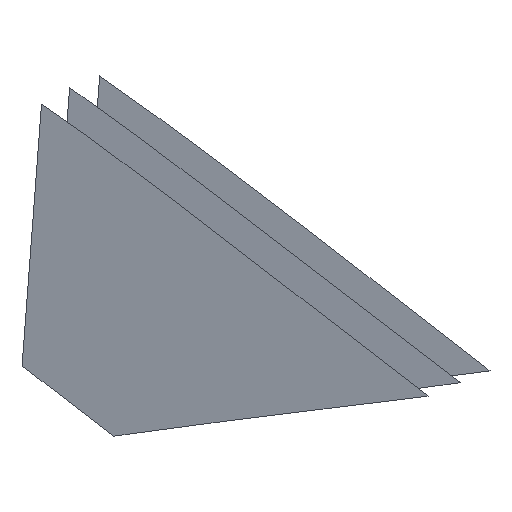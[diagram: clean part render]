
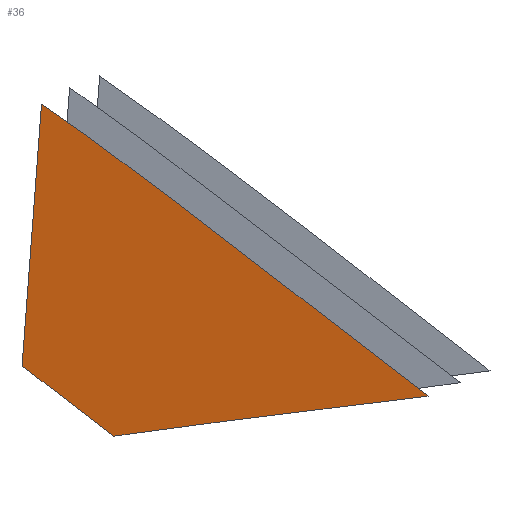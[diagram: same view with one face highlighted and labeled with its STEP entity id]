
A CAD part, front view. The second image highlights one B-rep face of the part: STEP entity #36.
In plain terms, the highlighted free-form (B-spline) face has degree [1, 1] with [2, 2] control points.
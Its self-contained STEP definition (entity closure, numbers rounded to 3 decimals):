
#36 = ADVANCED_FACE('',(#37),#50,.T.);
#37 = FACE_BOUND('',#38,.T.);
#38 = EDGE_LOOP('',(#39,#60,#74,#88,#102,#116,#130,#144,#158,#172,#186)
  );
#39 = ORIENTED_EDGE('',*,*,#40,.T.);
#40 = EDGE_CURVE('',#41,#43,#45,.T.);
#41 = VERTEX_POINT('',#42);
#42 = CARTESIAN_POINT('',(1612.529,-1408.364,
    1373.649));
#43 = VERTEX_POINT('',#44);
#44 = CARTESIAN_POINT('',(1612.907,-1408.416,
    1373.368));
#45 = SURFACE_CURVE('',#46,(#49),.PCURVE_S1.);
#46 = B_SPLINE_CURVE_WITH_KNOTS('',1,(#47,#48),.UNSPECIFIED.,.F.,.F.,(2,
    2),(0.,0.474),.PIECEWISE_BEZIER_KNOTS.);
#47 = CARTESIAN_POINT('',(1612.529,-1408.364,
    1373.649));
#48 = CARTESIAN_POINT('',(1612.907,-1408.416,
    1373.368));
#49 = PCURVE('',#50,#55);
#50 = B_SPLINE_SURFACE_WITH_KNOTS('',1,1,(
    (#51,#52)
    ,(#53,#54
    )),.UNSPECIFIED.,.F.,.F.,.F.,(2,2),(2,2),(-4.438,
    2.582),(-3.45,4.575),
  .PIECEWISE_BEZIER_KNOTS.);
#51 = CARTESIAN_POINT('',(1611.646,-1408.566,
    1378.657));
#52 = CARTESIAN_POINT('',(1619.406,-1410.146,
    1379.96));
#53 = CARTESIAN_POINT('',(1612.863,-1408.287,
    1371.749));
#54 = CARTESIAN_POINT('',(1620.623,-1409.867,
    1373.053));
#55 = DEFINITIONAL_REPRESENTATION('',(#56),#59);
#56 = B_SPLINE_CURVE_WITH_KNOTS('',1,(#57,#58),.UNSPECIFIED.,.F.,.F.,(2,
    2),(0.,0.474),.PIECEWISE_BEZIER_KNOTS.);
#57 = CARTESIAN_POINT('',(0.651,-3.45));
#58 = CARTESIAN_POINT('',(0.991,-3.12));
#59 = ( GEOMETRIC_REPRESENTATION_CONTEXT(2) 
PARAMETRIC_REPRESENTATION_CONTEXT() REPRESENTATION_CONTEXT('2D SPACE',''
  ) );
#60 = ORIENTED_EDGE('',*,*,#61,.T.);
#61 = EDGE_CURVE('',#43,#62,#64,.T.);
#62 = VERTEX_POINT('',#63);
#63 = CARTESIAN_POINT('',(1614.351,-1408.609,
    1372.257));
#64 = SURFACE_CURVE('',#65,(#68),.PCURVE_S1.);
#65 = B_SPLINE_CURVE_WITH_KNOTS('',1,(#66,#67),.UNSPECIFIED.,.F.,.F.,(2,
    2),(0.,1.832),.PIECEWISE_BEZIER_KNOTS.);
#66 = CARTESIAN_POINT('',(1612.907,-1408.416,
    1373.368));
#67 = CARTESIAN_POINT('',(1614.351,-1408.609,
    1372.257));
#68 = PCURVE('',#50,#69);
#69 = DEFINITIONAL_REPRESENTATION('',(#70),#73);
#70 = B_SPLINE_CURVE_WITH_KNOTS('',1,(#71,#72),.UNSPECIFIED.,.F.,.F.,(2,
    2),(0.,1.832),.PIECEWISE_BEZIER_KNOTS.);
#71 = CARTESIAN_POINT('',(0.991,-3.12));
#72 = CARTESIAN_POINT('',(2.327,-1.866));
#73 = ( GEOMETRIC_REPRESENTATION_CONTEXT(2) 
PARAMETRIC_REPRESENTATION_CONTEXT() REPRESENTATION_CONTEXT('2D SPACE',''
  ) );
#74 = ORIENTED_EDGE('',*,*,#75,.T.);
#75 = EDGE_CURVE('',#62,#76,#78,.T.);
#76 = VERTEX_POINT('',#77);
#77 = CARTESIAN_POINT('',(1614.747,-1408.689,
    1372.31));
#78 = SURFACE_CURVE('',#79,(#82),.PCURVE_S1.);
#79 = B_SPLINE_CURVE_WITH_KNOTS('',1,(#80,#81),.UNSPECIFIED.,.F.,.F.,(2,
    2),(0.,0.407),.PIECEWISE_BEZIER_KNOTS.);
#80 = CARTESIAN_POINT('',(1614.351,-1408.609,
    1372.257));
#81 = CARTESIAN_POINT('',(1614.747,-1408.689,
    1372.31));
#82 = PCURVE('',#50,#83);
#83 = DEFINITIONAL_REPRESENTATION('',(#84),#87);
#84 = B_SPLINE_CURVE_WITH_KNOTS('',1,(#85,#86),.UNSPECIFIED.,.F.,.F.,(2,
    2),(0.,0.407),.PIECEWISE_BEZIER_KNOTS.);
#85 = CARTESIAN_POINT('',(2.327,-1.866));
#86 = CARTESIAN_POINT('',(2.34,-1.459));
#87 = ( GEOMETRIC_REPRESENTATION_CONTEXT(2) 
PARAMETRIC_REPRESENTATION_CONTEXT() REPRESENTATION_CONTEXT('2D SPACE',''
  ) );
#88 = ORIENTED_EDGE('',*,*,#89,.T.);
#89 = EDGE_CURVE('',#76,#90,#92,.T.);
#90 = VERTEX_POINT('',#91);
#91 = CARTESIAN_POINT('',(1616.694,-1409.08,
    1372.571));
#92 = SURFACE_CURVE('',#93,(#96),.PCURVE_S1.);
#93 = B_SPLINE_CURVE_WITH_KNOTS('',1,(#94,#95),.UNSPECIFIED.,.F.,.F.,(2,
    2),(0.,2.003),.PIECEWISE_BEZIER_KNOTS.);
#94 = CARTESIAN_POINT('',(1614.747,-1408.689,
    1372.31));
#95 = CARTESIAN_POINT('',(1616.694,-1409.08,
    1372.571));
#96 = PCURVE('',#50,#97);
#97 = DEFINITIONAL_REPRESENTATION('',(#98),#101);
#98 = B_SPLINE_CURVE_WITH_KNOTS('',1,(#99,#100),.UNSPECIFIED.,.F.,.F.,(2
    ,2),(0.,2.003),.PIECEWISE_BEZIER_KNOTS.);
#99 = CARTESIAN_POINT('',(2.34,-1.459));
#100 = CARTESIAN_POINT('',(2.406,0.543));
#101 = ( GEOMETRIC_REPRESENTATION_CONTEXT(2) 
PARAMETRIC_REPRESENTATION_CONTEXT() REPRESENTATION_CONTEXT('2D SPACE',''
  ) );
#102 = ORIENTED_EDGE('',*,*,#103,.T.);
#103 = EDGE_CURVE('',#90,#104,#106,.T.);
#104 = VERTEX_POINT('',#105);
#105 = CARTESIAN_POINT('',(1618.643,-1409.471,
    1372.812));
#106 = SURFACE_CURVE('',#107,(#110),.PCURVE_S1.);
#107 = B_SPLINE_CURVE_WITH_KNOTS('',1,(#108,#109),.UNSPECIFIED.,.F.,.F.,
  (2,2),(0.,2.003),.PIECEWISE_BEZIER_KNOTS.);
#108 = CARTESIAN_POINT('',(1616.694,-1409.08,
    1372.571));
#109 = CARTESIAN_POINT('',(1618.643,-1409.471,
    1372.812));
#110 = PCURVE('',#50,#111);
#111 = DEFINITIONAL_REPRESENTATION('',(#112),#115);
#112 = B_SPLINE_CURVE_WITH_KNOTS('',1,(#113,#114),.UNSPECIFIED.,.F.,.F.,
  (2,2),(0.,2.003),.PIECEWISE_BEZIER_KNOTS.);
#113 = CARTESIAN_POINT('',(2.406,0.543));
#114 = CARTESIAN_POINT('',(2.491,2.544));
#115 = ( GEOMETRIC_REPRESENTATION_CONTEXT(2) 
PARAMETRIC_REPRESENTATION_CONTEXT() REPRESENTATION_CONTEXT('2D SPACE',''
  ) );
#116 = ORIENTED_EDGE('',*,*,#117,.T.);
#117 = EDGE_CURVE('',#104,#118,#120,.T.);
#118 = VERTEX_POINT('',#119);
#119 = CARTESIAN_POINT('',(1620.594,-1409.861,
    1373.049));
#120 = SURFACE_CURVE('',#121,(#124),.PCURVE_S1.);
#121 = B_SPLINE_CURVE_WITH_KNOTS('',1,(#122,#123),.UNSPECIFIED.,.F.,.F.,
  (2,2),(0.,2.003),.PIECEWISE_BEZIER_KNOTS.);
#122 = CARTESIAN_POINT('',(1618.643,-1409.471,
    1372.812));
#123 = CARTESIAN_POINT('',(1620.594,-1409.861,
    1373.049));
#124 = PCURVE('',#50,#125);
#125 = DEFINITIONAL_REPRESENTATION('',(#126),#129);
#126 = B_SPLINE_CURVE_WITH_KNOTS('',1,(#127,#128),.UNSPECIFIED.,.F.,.F.,
  (2,2),(0.,2.003),.PIECEWISE_BEZIER_KNOTS.);
#127 = CARTESIAN_POINT('',(2.491,2.544));
#128 = CARTESIAN_POINT('',(2.58,4.545));
#129 = ( GEOMETRIC_REPRESENTATION_CONTEXT(2) 
PARAMETRIC_REPRESENTATION_CONTEXT() REPRESENTATION_CONTEXT('2D SPACE',''
  ) );
#130 = ORIENTED_EDGE('',*,*,#131,.T.);
#131 = EDGE_CURVE('',#118,#132,#134,.T.);
#132 = VERTEX_POINT('',#133);
#133 = CARTESIAN_POINT('',(1620.623,-1409.867,
    1373.053));
#134 = SURFACE_CURVE('',#135,(#138),.PCURVE_S1.);
#135 = B_SPLINE_CURVE_WITH_KNOTS('',1,(#136,#137),.UNSPECIFIED.,.F.,.F.,
  (2,2),(0.,0.03),.PIECEWISE_BEZIER_KNOTS.);
#136 = CARTESIAN_POINT('',(1620.594,-1409.861,
    1373.049));
#137 = CARTESIAN_POINT('',(1620.623,-1409.867,
    1373.053));
#138 = PCURVE('',#50,#139);
#139 = DEFINITIONAL_REPRESENTATION('',(#140),#143);
#140 = B_SPLINE_CURVE_WITH_KNOTS('',1,(#141,#142),.UNSPECIFIED.,.F.,.F.,
  (2,2),(0.,0.03),.PIECEWISE_BEZIER_KNOTS.);
#141 = CARTESIAN_POINT('',(2.58,4.545));
#142 = CARTESIAN_POINT('',(2.582,4.575));
#143 = ( GEOMETRIC_REPRESENTATION_CONTEXT(2) 
PARAMETRIC_REPRESENTATION_CONTEXT() REPRESENTATION_CONTEXT('2D SPACE',''
  ) );
#144 = ORIENTED_EDGE('',*,*,#145,.T.);
#145 = EDGE_CURVE('',#132,#146,#148,.T.);
#146 = VERTEX_POINT('',#147);
#147 = CARTESIAN_POINT('',(1615.527,-1409.183,
    1376.972));
#148 = SURFACE_CURVE('',#149,(#152),.PCURVE_S1.);
#149 = B_SPLINE_CURVE_WITH_KNOTS('',1,(#150,#151),.UNSPECIFIED.,.F.,.F.,
  (2,2),(0.,6.465),.PIECEWISE_BEZIER_KNOTS.);
#150 = CARTESIAN_POINT('',(1620.623,-1409.867,
    1373.053));
#151 = CARTESIAN_POINT('',(1615.527,-1409.183,
    1376.972));
#152 = PCURVE('',#50,#153);
#153 = DEFINITIONAL_REPRESENTATION('',(#154),#157);
#154 = B_SPLINE_CURVE_WITH_KNOTS('',1,(#155,#156),.UNSPECIFIED.,.F.,.F.,
  (2,2),(0.,6.465),.PIECEWISE_BEZIER_KNOTS.);
#155 = CARTESIAN_POINT('',(2.582,4.575));
#156 = CARTESIAN_POINT('',(-2.132,0.15));
#157 = ( GEOMETRIC_REPRESENTATION_CONTEXT(2) 
PARAMETRIC_REPRESENTATION_CONTEXT() REPRESENTATION_CONTEXT('2D SPACE',''
  ) );
#158 = ORIENTED_EDGE('',*,*,#159,.T.);
#159 = EDGE_CURVE('',#146,#160,#162,.T.);
#160 = VERTEX_POINT('',#161);
#161 = CARTESIAN_POINT('',(1613.875,-1408.958,
    1378.199));
#162 = SURFACE_CURVE('',#163,(#166),.PCURVE_S1.);
#163 = B_SPLINE_CURVE_WITH_KNOTS('',1,(#164,#165),.UNSPECIFIED.,.F.,.F.,
  (2,2),(0.,2.07),.PIECEWISE_BEZIER_KNOTS.);
#164 = CARTESIAN_POINT('',(1615.527,-1409.183,
    1376.972));
#165 = CARTESIAN_POINT('',(1613.875,-1408.958,
    1378.199));
#166 = PCURVE('',#50,#167);
#167 = DEFINITIONAL_REPRESENTATION('',(#168),#171);
#168 = B_SPLINE_CURVE_WITH_KNOTS('',1,(#169,#170),.UNSPECIFIED.,.F.,.F.,
  (2,2),(0.,2.07),.PIECEWISE_BEZIER_KNOTS.);
#169 = CARTESIAN_POINT('',(-2.132,0.15));
#170 = CARTESIAN_POINT('',(-3.617,-1.292));
#171 = ( GEOMETRIC_REPRESENTATION_CONTEXT(2) 
PARAMETRIC_REPRESENTATION_CONTEXT() REPRESENTATION_CONTEXT('2D SPACE',''
  ) );
#172 = ORIENTED_EDGE('',*,*,#173,.T.);
#173 = EDGE_CURVE('',#160,#174,#176,.T.);
#174 = VERTEX_POINT('',#175);
#175 = CARTESIAN_POINT('',(1612.917,-1408.825,
    1378.87));
#176 = SURFACE_CURVE('',#177,(#180),.PCURVE_S1.);
#177 = B_SPLINE_CURVE_WITH_KNOTS('',1,(#178,#179),.UNSPECIFIED.,.F.,.F.,
  (2,2),(0.,1.178),.PIECEWISE_BEZIER_KNOTS.);
#178 = CARTESIAN_POINT('',(1613.875,-1408.958,
    1378.199));
#179 = CARTESIAN_POINT('',(1612.917,-1408.825,
    1378.87));
#180 = PCURVE('',#50,#181);
#181 = DEFINITIONAL_REPRESENTATION('',(#182),#185);
#182 = B_SPLINE_CURVE_WITH_KNOTS('',1,(#183,#184),.UNSPECIFIED.,.F.,.F.,
  (2,2),(0.,1.178),.PIECEWISE_BEZIER_KNOTS.);
#183 = CARTESIAN_POINT('',(-3.617,-1.292));
#184 = CARTESIAN_POINT('',(-4.438,-2.136));
#185 = ( GEOMETRIC_REPRESENTATION_CONTEXT(2) 
PARAMETRIC_REPRESENTATION_CONTEXT() REPRESENTATION_CONTEXT('2D SPACE',''
  ) );
#186 = ORIENTED_EDGE('',*,*,#187,.T.);
#187 = EDGE_CURVE('',#174,#41,#188,.T.);
#188 = SURFACE_CURVE('',#189,(#192),.PCURVE_S1.);
#189 = B_SPLINE_CURVE_WITH_KNOTS('',1,(#190,#191),.UNSPECIFIED.,.F.,.F.,
  (2,2),(0.,5.256),.PIECEWISE_BEZIER_KNOTS.);
#190 = CARTESIAN_POINT('',(1612.917,-1408.825,
    1378.87));
#191 = CARTESIAN_POINT('',(1612.529,-1408.364,
    1373.649));
#192 = PCURVE('',#50,#193);
#193 = DEFINITIONAL_REPRESENTATION('',(#194),#197);
#194 = B_SPLINE_CURVE_WITH_KNOTS('',1,(#195,#196),.UNSPECIFIED.,.F.,.F.,
  (2,2),(0.,5.256),.PIECEWISE_BEZIER_KNOTS.);
#195 = CARTESIAN_POINT('',(-4.438,-2.136));
#196 = CARTESIAN_POINT('',(0.651,-3.45));
#197 = ( GEOMETRIC_REPRESENTATION_CONTEXT(2) 
PARAMETRIC_REPRESENTATION_CONTEXT() REPRESENTATION_CONTEXT('2D SPACE',''
  ) );
